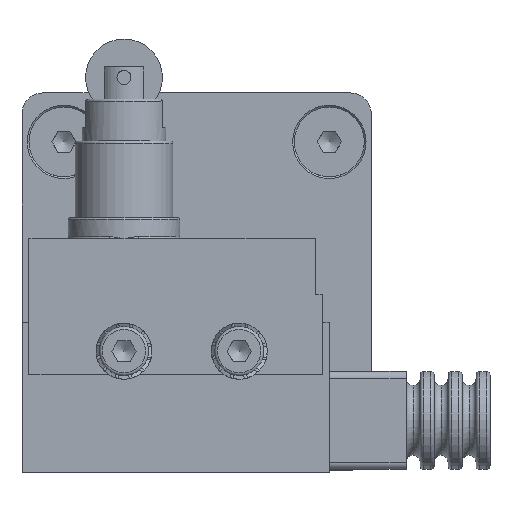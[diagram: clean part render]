
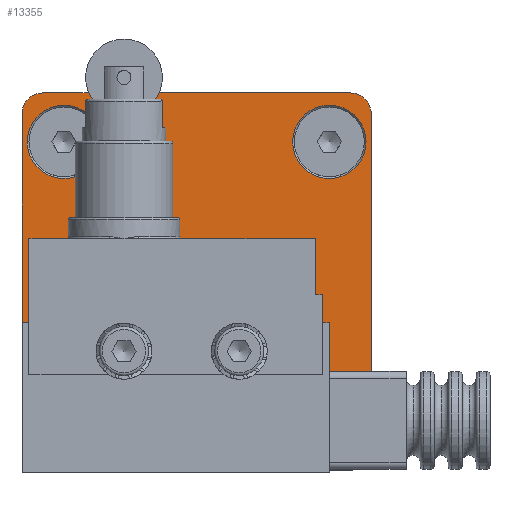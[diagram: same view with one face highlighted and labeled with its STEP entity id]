
A CAD part, top view. The second image highlights one B-rep face of the part: STEP entity #13355.
In plain terms, the highlighted planar face has unit normal (0, 0, 1).
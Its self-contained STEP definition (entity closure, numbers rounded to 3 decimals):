
#7 = ORIENTED_EDGE ( 'NONE', *, *, #3081, .F. ) ;
#57 = FACE_BOUND ( 'NONE', #7162, .T. ) ;
#449 = ORIENTED_EDGE ( 'NONE', *, *, #6012, .T. ) ;
#450 = VERTEX_POINT ( 'NONE', #11177 ) ;
#461 = VERTEX_POINT ( 'NONE', #5996 ) ;
#619 = CARTESIAN_POINT ( 'NONE',  ( 24.25, 20., 5. ) ) ;
#746 = FACE_BOUND ( 'NONE', #13538, .T. ) ;
#799 = ORIENTED_EDGE ( 'NONE', *, *, #4796, .F. ) ;
#929 = CARTESIAN_POINT ( 'NONE',  ( 22., 24., 5. ) ) ;
#1079 = FACE_BOUND ( 'NONE', #3977, .T. ) ;
#1088 = CIRCLE ( 'NONE', #9264, 3. ) ;
#1150 = ORIENTED_EDGE ( 'NONE', *, *, #12161, .T. ) ;
#1416 = AXIS2_PLACEMENT_3D ( 'NONE', #6881, #7975, #10169 ) ;
#1455 = EDGE_LOOP ( 'NONE', ( #10272 ) ) ;
#1491 = ORIENTED_EDGE ( 'NONE', *, *, #13341, .F. ) ;
#1694 = AXIS2_PLACEMENT_3D ( 'NONE', #6760, #4806, #13142 ) ;
#1743 = EDGE_CURVE ( 'NONE', #4306, #11915, #6316, .T. ) ;
#1770 = DIRECTION ( 'NONE',  ( 1., 0., 0. ) ) ;
#2014 = CARTESIAN_POINT ( 'NONE',  ( 22., 27., 5. ) ) ;
#2017 = EDGE_CURVE ( 'NONE', #461, #7752, #8451, .T. ) ;
#2039 = CARTESIAN_POINT ( 'NONE',  ( 10.4, -10., 5. ) ) ;
#2075 = AXIS2_PLACEMENT_3D ( 'NONE', #11385, #6208, #8217 ) ;
#2212 = AXIS2_PLACEMENT_3D ( 'NONE', #6141, #13556, #2958 ) ;
#2713 = EDGE_LOOP ( 'NONE', ( #4671 ) ) ;
#2926 = FACE_BOUND ( 'NONE', #3200, .T. ) ;
#2958 = DIRECTION ( 'NONE',  ( 1., 0., 0. ) ) ;
#3081 = EDGE_CURVE ( 'NONE', #6889, #6889, #10287, .T. ) ;
#3200 = EDGE_LOOP ( 'NONE', ( #12667 ) ) ;
#3221 = CARTESIAN_POINT ( 'NONE',  ( -22., -27., 5. ) ) ;
#3387 = CARTESIAN_POINT ( 'NONE',  ( -6.1, -10., 5. ) ) ;
#3391 = CARTESIAN_POINT ( 'NONE',  ( -22., 27., 5. ) ) ;
#3424 = DIRECTION ( 'NONE',  ( 1., 0., 0. ) ) ;
#3735 = AXIS2_PLACEMENT_3D ( 'NONE', #3387, #8729, #3424 ) ;
#3749 = CARTESIAN_POINT ( 'NONE',  ( -25., -24., 5. ) ) ;
#3854 = VECTOR ( 'NONE', #10248, 1000. ) ;
#3977 = EDGE_LOOP ( 'NONE', ( #7 ) ) ;
#4026 = AXIS2_PLACEMENT_3D ( 'NONE', #10507, #11692, #7309 ) ;
#4306 = VERTEX_POINT ( 'NONE', #3749 ) ;
#4369 = VECTOR ( 'NONE', #6722, 1000. ) ;
#4671 = ORIENTED_EDGE ( 'NONE', *, *, #11785, .F. ) ;
#4796 = EDGE_CURVE ( 'NONE', #5571, #5571, #9391, .T. ) ;
#4806 = DIRECTION ( 'NONE',  ( 0., 0., 1. ) ) ;
#4923 = DIRECTION ( 'NONE',  ( 0., 0., 1. ) ) ;
#4979 = VERTEX_POINT ( 'NONE', #7337 ) ;
#5474 = CARTESIAN_POINT ( 'NONE',  ( -22., 27., 5. ) ) ;
#5571 = VERTEX_POINT ( 'NONE', #619 ) ;
#5734 = VERTEX_POINT ( 'NONE', #10560 ) ;
#5851 = VERTEX_POINT ( 'NONE', #5474 ) ;
#5859 = LINE ( 'NONE', #10347, #3854 ) ;
#5996 = CARTESIAN_POINT ( 'NONE',  ( 25., -24., 5. ) ) ;
#6012 = EDGE_CURVE ( 'NONE', #450, #4306, #9860, .T. ) ;
#6049 = CARTESIAN_POINT ( 'NONE',  ( 25., 24., 5. ) ) ;
#6141 = CARTESIAN_POINT ( 'NONE',  ( -22., 24., 5. ) ) ;
#6208 = DIRECTION ( 'NONE',  ( 0., 0., 1. ) ) ;
#6316 = CIRCLE ( 'NONE', #11694, 3. ) ;
#6374 = DIRECTION ( 'NONE',  ( 1., 0., 0. ) ) ;
#6675 = EDGE_CURVE ( 'NONE', #11915, #4979, #5859, .T. ) ;
#6722 = DIRECTION ( 'NONE',  ( 0., -1., 0. ) ) ;
#6760 = CARTESIAN_POINT ( 'NONE',  ( 6.1, -10., 5. ) ) ;
#6863 = AXIS2_PLACEMENT_3D ( 'NONE', #929, #10555, #12558 ) ;
#6881 = CARTESIAN_POINT ( 'NONE',  ( 22., 24., 5. ) ) ;
#6889 = VERTEX_POINT ( 'NONE', #13368 ) ;
#6899 = DIRECTION ( 'NONE',  ( -1., 0., 0. ) ) ;
#6954 = ORIENTED_EDGE ( 'NONE', *, *, #9408, .T. ) ;
#7042 = CARTESIAN_POINT ( 'NONE',  ( 12.05, -10., 5. ) ) ;
#7162 = EDGE_LOOP ( 'NONE', ( #1491 ) ) ;
#7309 = DIRECTION ( 'NONE',  ( 1., 0., 0. ) ) ;
#7337 = CARTESIAN_POINT ( 'NONE',  ( 22., -27., 5. ) ) ;
#7597 = VECTOR ( 'NONE', #13422, 1000. ) ;
#7712 = EDGE_LOOP ( 'NONE', ( #8644, #6954, #9041, #449, #12801, #13478, #1150, #9547 ) ) ;
#7752 = VERTEX_POINT ( 'NONE', #11545 ) ;
#7975 = DIRECTION ( 'NONE',  ( 0., 0., 1. ) ) ;
#8217 = DIRECTION ( 'NONE',  ( 1., 0., 0. ) ) ;
#8228 = DIRECTION ( 'NONE',  ( 1., 0., 0. ) ) ;
#8251 = EDGE_CURVE ( 'NONE', #9072, #9072, #11763, .T. ) ;
#8338 = CARTESIAN_POINT ( 'NONE',  ( -13.75, 20., 5. ) ) ;
#8451 = LINE ( 'NONE', #6049, #7597 ) ;
#8507 = AXIS2_PLACEMENT_3D ( 'NONE', #2039, #13790, #9398 ) ;
#8587 = FACE_BOUND ( 'NONE', #2713, .T. ) ;
#8609 = CIRCLE ( 'NONE', #2212, 3. ) ;
#8644 = ORIENTED_EDGE ( 'NONE', *, *, #13452, .T. ) ;
#8729 = DIRECTION ( 'NONE',  ( 0., 0., 1. ) ) ;
#9041 = ORIENTED_EDGE ( 'NONE', *, *, #11335, .T. ) ;
#9072 = VERTEX_POINT ( 'NONE', #7042 ) ;
#9136 = DIRECTION ( 'NONE',  ( 0., 0., 1. ) ) ;
#9264 = AXIS2_PLACEMENT_3D ( 'NONE', #10401, #4923, #1770 ) ;
#9391 = CIRCLE ( 'NONE', #2075, 5.25 ) ;
#9398 = DIRECTION ( 'NONE',  ( 1., 0., 0. ) ) ;
#9408 = EDGE_CURVE ( 'NONE', #10090, #5851, #10337, .T. ) ;
#9490 = VECTOR ( 'NONE', #6899, 1000. ) ;
#9547 = ORIENTED_EDGE ( 'NONE', *, *, #2017, .T. ) ;
#9561 = CARTESIAN_POINT ( 'NONE',  ( -8.75, -10., 5. ) ) ;
#9605 = CIRCLE ( 'NONE', #12839, 1.65 ) ;
#9727 = VERTEX_POINT ( 'NONE', #9561 ) ;
#9860 = LINE ( 'NONE', #12068, #4369 ) ;
#10090 = VERTEX_POINT ( 'NONE', #2014 ) ;
#10169 = DIRECTION ( 'NONE',  ( -1., 0., 0. ) ) ;
#10248 = DIRECTION ( 'NONE',  ( 1., 0., 0. ) ) ;
#10272 = ORIENTED_EDGE ( 'NONE', *, *, #8251, .F. ) ;
#10287 = CIRCLE ( 'NONE', #3735, 1.65 ) ;
#10337 = LINE ( 'NONE', #3391, #9490 ) ;
#10347 = CARTESIAN_POINT ( 'NONE',  ( -22., -27., 5. ) ) ;
#10401 = CARTESIAN_POINT ( 'NONE',  ( 22., -24., 5. ) ) ;
#10415 = VERTEX_POINT ( 'NONE', #8338 ) ;
#10470 = PLANE ( 'NONE',  #6863 ) ;
#10507 = CARTESIAN_POINT ( 'NONE',  ( -19., 20., 5. ) ) ;
#10555 = DIRECTION ( 'NONE',  ( 0., 0., -1. ) ) ;
#10560 = CARTESIAN_POINT ( 'NONE',  ( 7.75, -10., 5. ) ) ;
#10776 = CIRCLE ( 'NONE', #4026, 5.25 ) ;
#11177 = CARTESIAN_POINT ( 'NONE',  ( -25., 24., 5. ) ) ;
#11335 = EDGE_CURVE ( 'NONE', #5851, #450, #8609, .T. ) ;
#11385 = CARTESIAN_POINT ( 'NONE',  ( 19., 20., 5. ) ) ;
#11545 = CARTESIAN_POINT ( 'NONE',  ( 25., 24., 5. ) ) ;
#11692 = DIRECTION ( 'NONE',  ( 0., 0., 1. ) ) ;
#11694 = AXIS2_PLACEMENT_3D ( 'NONE', #12797, #13745, #6374 ) ;
#11763 = CIRCLE ( 'NONE', #8507, 1.65 ) ;
#11785 = EDGE_CURVE ( 'NONE', #9727, #9727, #9605, .T. ) ;
#11915 = VERTEX_POINT ( 'NONE', #3221 ) ;
#12068 = CARTESIAN_POINT ( 'NONE',  ( -25., 24., 5. ) ) ;
#12124 = FACE_BOUND ( 'NONE', #1455, .T. ) ;
#12161 = EDGE_CURVE ( 'NONE', #4979, #461, #1088, .T. ) ;
#12501 = CARTESIAN_POINT ( 'NONE',  ( -10.4, -10., 5. ) ) ;
#12558 = DIRECTION ( 'NONE',  ( -1., 0., 0. ) ) ;
#12667 = ORIENTED_EDGE ( 'NONE', *, *, #13062, .F. ) ;
#12797 = CARTESIAN_POINT ( 'NONE',  ( -22., -24., 5. ) ) ;
#12801 = ORIENTED_EDGE ( 'NONE', *, *, #1743, .T. ) ;
#12839 = AXIS2_PLACEMENT_3D ( 'NONE', #12501, #9136, #8228 ) ;
#12921 = FACE_OUTER_BOUND ( 'NONE', #7712, .T. ) ;
#12932 = CIRCLE ( 'NONE', #1694, 1.65 ) ;
#13062 = EDGE_CURVE ( 'NONE', #5734, #5734, #12932, .T. ) ;
#13086 = CIRCLE ( 'NONE', #1416, 3. ) ;
#13142 = DIRECTION ( 'NONE',  ( 1., 0., 0. ) ) ;
#13341 = EDGE_CURVE ( 'NONE', #10415, #10415, #10776, .T. ) ;
#13355 = ADVANCED_FACE ( 'NONE', ( #8587, #2926, #1079, #12124, #57, #12921, #746 ), #10470, .F. ) ;
#13368 = CARTESIAN_POINT ( 'NONE',  ( -4.45, -10., 5. ) ) ;
#13422 = DIRECTION ( 'NONE',  ( 0., 1., 0. ) ) ;
#13452 = EDGE_CURVE ( 'NONE', #7752, #10090, #13086, .T. ) ;
#13478 = ORIENTED_EDGE ( 'NONE', *, *, #6675, .T. ) ;
#13538 = EDGE_LOOP ( 'NONE', ( #799 ) ) ;
#13556 = DIRECTION ( 'NONE',  ( 0., 0., 1. ) ) ;
#13745 = DIRECTION ( 'NONE',  ( 0., 0., 1. ) ) ;
#13790 = DIRECTION ( 'NONE',  ( 0., 0., 1. ) ) ;
